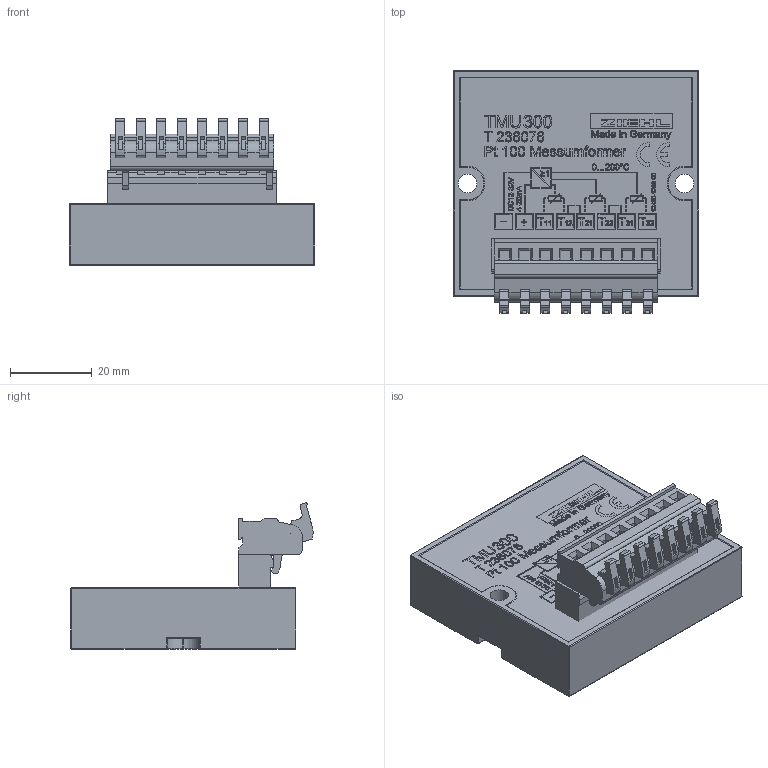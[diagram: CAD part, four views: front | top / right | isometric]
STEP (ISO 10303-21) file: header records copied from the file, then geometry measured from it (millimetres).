
FILE_DESCRIPTION (( 'STEP AP214' ), '1' );
FILE_NAME ('12480-1900-01_TMU300_3D.STEP', '2016-05-03T08:01:18', ( '' ), ( '' ), 'SwSTEP 2.0', 'SolidWorks 2015', '' );
FILE_SCHEMA (( 'AUTOMOTIVE_DESIGN' ));
Length unit declared in the file: millimetre
Products named in the file (5): 31177108 Stiftleiste 8-polig; 12480-1901-00; 12480-1200-00_3D; ASP045 8-polig; 12480-1900-01_TMU300_3D
Assembly tree (4 placements, depth 2):
  12480-1900-01_TMU300_3D
    12480-1901-00
    31177108 Stiftleiste 8-polig
    ASP045 8-polig
    12480-1200-00_3D
Bounding box: 60 x 59.2 x 35.71 mm (x, y, z)
Volume: 54718.5 mm3; surface area: 18386.7 mm2
Topology: 170 solids, 195 shells, 2302 faces, 5652 edges, 3723 vertices
Faces by surface type: plane 1826, bspline 319, cylinder 137, sphere 12, torus 8
Full cylindrical faces by diameter (mm): 0.05 x1, 4.5 x2
Entity records: 80810 total; most frequent: CARTESIAN_POINT 22144, ORIENTED_EDGE 11140, DIRECTION 9243, EDGE_CURVE 5634, LINE 4705, VECTOR 4705, VERTEX_POINT 3722, EDGE_LOOP 2438
